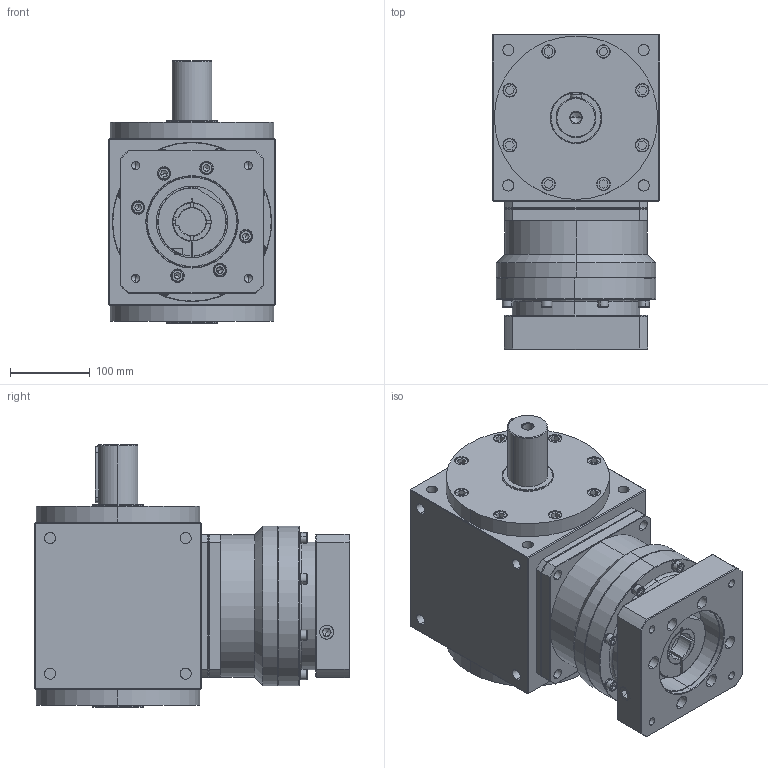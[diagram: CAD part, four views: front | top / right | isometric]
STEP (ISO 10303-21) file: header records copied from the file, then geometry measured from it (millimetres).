
FILE_DESCRIPTION (( 'STEP AP203' ), '1' );
FILE_NAME ('AT210-FR1-L1 35-114.3-200-M12.STEP', '2024-12-30T07:55:00', ( '' ), ( '' ), 'SwSTEP 2.0', 'SolidWorks 2021', '' );
FILE_SCHEMA (( 'CONFIG_CONTROL_DESIGN' ));
Length unit declared in the file: millimetre
Products named in the file (3): KS180L1-114.3-35-82-M12-200俋倛芞; AT210-FR1-L1 35-114.3-200-M12
Assembly tree (2 placements, depth 2):
  AT210-FR1-L1 35-114.3-200-M12
    AT210-FR1-L1 35-114.3-200-M12
    KS180L1-114.3-35-82-M12-200俋倛芞
Bounding box: 210 x 396 x 329 mm (x, y, z)
Volume: 15423033.8 mm3; surface area: 755694.4 mm2
Topology: 36 solids, 36 shells, 1200 faces, 2821 edges, 1744 vertices
Faces by surface type: plane 580, cylinder 431, cone 153, bspline 36
Entity records: 34999 total; most frequent: CARTESIAN_POINT 7376, DIRECTION 5880, ORIENTED_EDGE 5534, EDGE_CURVE 2767, AXIS2_PLACEMENT_3D 2224, VERTEX_POINT 1744, VECTOR 1432, LINE 1432
